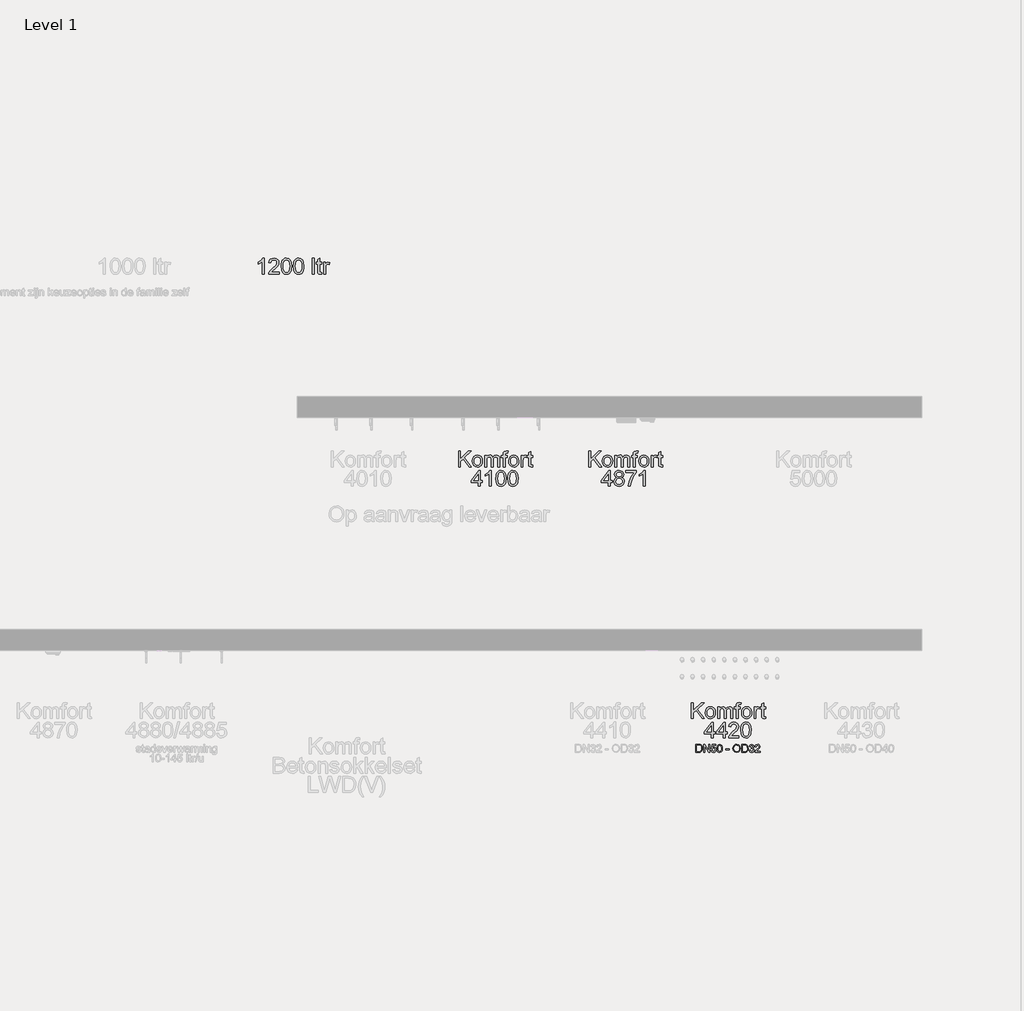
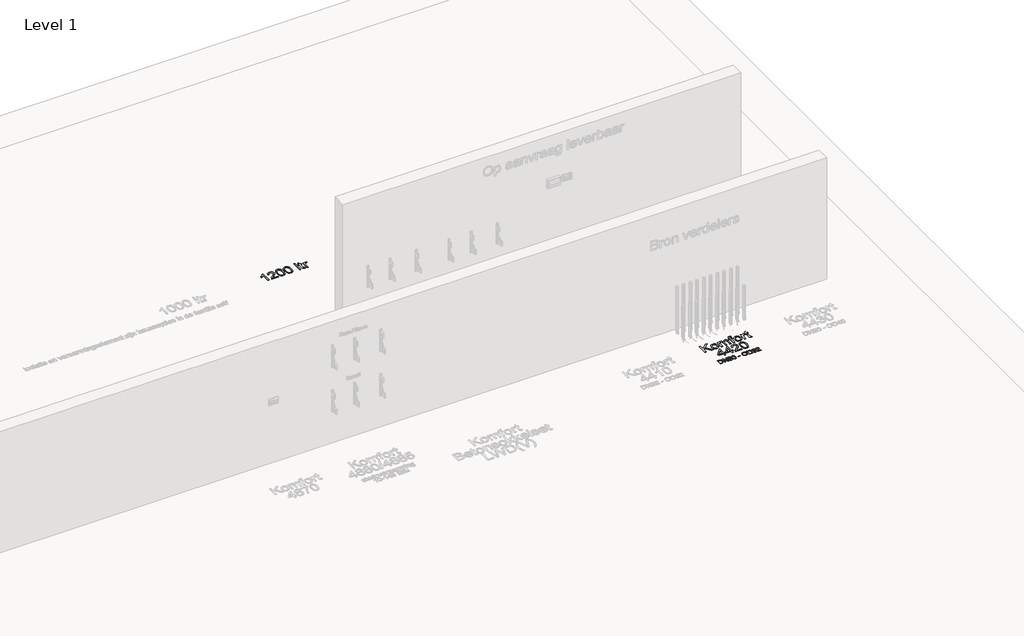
# One storey, part 32 of 34: 5 proxies.
"""IFC4 building model written with IfcOpenShell, lengths in millimetres."""

from ifc_helpers import new_model, si_unit, origin, origin_with_axes, place, context, project, spatial, polyline, outline, extrude, element, save

model = new_model("IFC4")

# Units and contexts
model_context = context("Model", 3, world=origin())
ifc_project = project(units=[si_unit("LENGTHUNIT", "METRE", prefix="MILLI")], contexts=[model_context])

# Site, building, storey
site = spatial("IfcSite", under=ifc_project)
building = spatial("IfcBuilding", under=site)
storey = spatial("IfcBuildingStorey", under=building, Name="Level 1", Elevation=0.0)

# Proxies
placement = place(None, origin())
element("IfcBuildingElementProxy", 1, Name="DN", ObjectType="DN", at=placement, inside=storey, context=model_context, shape_type="SweptSolid", body=[
    extrude(outline(polyline([(663.4238265, 6628.0579707), (663.4238265, 6701.9041245), (688.8985861, 6701.9041245), (702.0776727, 6700.8404226), (712.931038, 6695.5579707), (721.6750284, 6682.9377784), (724.5776727, 6665.3776822), (722.6125284, 6650.4768409), (717.5644515, 6639.7226341), (710.821663, 6633.0249178), (701.9965428, 6629.3199899), (690.1245477, 6628.0579707), (663.4238265, 6628.0579707)]), holes=[polyline([(672.6545957, 6637.2887399), (688.9887303, 6637.2887399), (700.86974, 6638.6228745), (707.7207015, 6642.3909034), (713.3366871, 6651.5585716), (715.3469034, 6665.521913), (711.4076005, 6683.0098937), (701.8252688, 6691.1949899), (688.7363265, 6692.6733553), (672.6545957, 6692.6733553), (672.6545957, 6637.2887399)])]), origin_with_axes(), (0.0, 0.0, 1.0), 5.0),
    extrude(outline(polyline([(737.2699803, 6628.0579707), (737.2699803, 6701.9041245), (747.149788, 6701.9041245), (785.7315188, 6643.4005187), (785.7315188, 6701.9041245), (794.962288, 6701.9041245), (794.962288, 6628.0579707), (785.0824803, 6628.0579707), (746.5007496, 6686.5796053), (746.5007496, 6628.0579707), (737.2699803, 6628.0579707)])), origin_with_axes(), (0.0, 0.0, 1.0), 5.0),
    extrude(outline(polyline([(807.6545957, 6647.6733553), (816.885365, 6648.8272014), (821.5368073, 6639.3169851), (831.18224, 6636.1348937), (842.7567592, 6640.5609755), (846.885365, 6652.3067687), (843.0181775, 6663.2683072), (831.3264707, 6667.2887399), (823.2225044, 6665.6841726), (818.0392111, 6661.5195091), (808.8084419, 6662.6733553), (816.885365, 6700.7502784), (852.6545957, 6700.7502784), (852.6545957, 6691.5195091), (824.3493073, 6691.5195091), (820.40099, 6671.1829707), (833.9045957, 6676.5195091), (842.529145, 6674.8653625), (849.6888505, 6669.9029226), (854.5093133, 6662.3398216), (856.1161342, 6652.8836918), (850.3288746, 6635.756288), (842.0175765, 6629.1171654), (831.1461823, 6626.9041245), (822.0799263, 6628.3261498), (814.8571198, 6632.5922255), (809.9059479, 6639.2065584), (807.6545957, 6647.6733553)])), origin_with_axes(), (0.0, 0.0, 1.0), 5.0),
    extrude(outline(polyline([(864.1930573, 6664.3860957), (866.9063986, 6685.6330909), (874.9652928, 6697.8836918), (888.4238265, 6701.9041245), (899.2050765, 6699.5243168), (906.65099, 6692.6643409), (910.977913, 6681.7388601), (912.6545957, 6664.3860957), (909.9682977, 6643.2292447), (901.9364467, 6630.9516005), (888.4238265, 6626.9041245), (878.8324803, 6628.661937), (871.5488265, 6633.9353745), (866.0319996, 6646.4248577), (864.1930573, 6664.3860957)]), holes=[polyline([(873.4238265, 6664.4041245), (874.5055573, 6649.8841425), (877.7507496, 6641.4804466), (888.4238265, 6636.1348937), (899.0969034, 6641.4984755), (902.3420957, 6649.9066786), (903.4238265, 6664.4041245), (899.2411342, 6687.0663841), (888.3156534, 6692.6733553), (877.8949803, 6687.7334514), (874.541615, 6678.7370572), (873.4238265, 6664.4041245)])]), origin_with_axes(), (0.0, 0.0, 1.0), 5.0),
    extrude(outline(polyline([(947.2699803, 6649.9810476), (947.2699803, 6659.2118168), (976.1161342, 6659.2118168), (976.1161342, 6649.9810476), (947.2699803, 6649.9810476)])), origin_with_axes(), (0.0, 0.0, 1.0), 5.0),
    extrude(outline(polyline([(1013.0392111, 6664.0074899), (1015.5001486, 6680.3371173), (1022.8829611, 6692.6913841), (1034.1554972, 6700.466324), (1048.2856053, 6703.0579707), (1066.6569996, 6698.1901822), (1079.1329611, 6684.614461), (1083.4238265, 6664.8548457), (1078.9076005, 6644.8247976), (1066.1071198, 6631.4473937), (1048.2315188, 6626.9041245), (1029.6618073, 6631.9251582), (1017.2579611, 6645.6270812), (1013.0392111, 6664.0074899)]), holes=[polyline([(1022.2699803, 6663.9173457), (1024.1156835, 6652.3653625), (1029.6527928, 6643.5627784), (1037.975359, 6637.9918649), (1048.1774323, 6636.1348937), (1058.5282436, 6638.0098937), (1066.8643313, 6643.6348937), (1072.3608758, 6652.7079106), (1074.1930573, 6664.926961), (1071.056038, 6680.161336), (1061.8883698, 6690.2484755), (1048.3396919, 6693.8272014), (1038.4103049, 6692.103193), (1029.9682977, 6686.9311678), (1024.1945597, 6677.7296954), (1022.2699803, 6663.9173457)])]), origin_with_axes(), (0.0, 0.0, 1.0), 5.0),
    extrude(outline(polyline([(1096.1161342, 6628.0579707), (1096.1161342, 6701.9041245), (1121.5908938, 6701.9041245), (1134.7699803, 6700.8404226), (1145.6233457, 6695.5579707), (1154.3673361, 6682.9377784), (1157.2699803, 6665.3776822), (1155.3048361, 6650.4768409), (1150.2567592, 6639.7226341), (1143.5139707, 6633.0249178), (1134.6888505, 6629.3199899), (1122.8168553, 6628.0579707), (1096.1161342, 6628.0579707)]), holes=[polyline([(1105.3469034, 6637.2887399), (1121.681038, 6637.2887399), (1133.5620477, 6638.6228745), (1140.4130092, 6642.3909034), (1146.0289948, 6651.5585716), (1148.0392111, 6665.521913), (1144.0999082, 6683.0098937), (1134.5175765, 6691.1949899), (1121.4286342, 6692.6733553), (1105.3469034, 6692.6733553), (1105.3469034, 6637.2887399)])]), origin_with_axes(), (0.0, 0.0, 1.0), 5.0),
    extrude(outline(polyline([(1166.5007496, 6647.6733553), (1175.7315188, 6648.8272014), (1180.8246678, 6639.1096534), (1190.352913, 6636.1348937), (1201.5668553, 6640.2274418), (1205.7315188, 6650.3596534), (1201.602913, 6659.9059274), (1191.1101246, 6663.6829707), (1184.6377688, 6662.6733553), (1185.665413, 6671.9041245), (1197.618538, 6674.4461918), (1202.2699803, 6682.5952303), (1198.8985861, 6689.8157832), (1190.2086823, 6692.6733553), (1181.4106053, 6689.7887399), (1176.885365, 6681.1348937), (1167.6545957, 6682.2887399), (1175.2086823, 6696.7659034), (1189.884163, 6701.9041245), (1201.0169755, 6699.3710716), (1208.8054371, 6692.4479947), (1211.5007496, 6683.1360957), (1208.9406534, 6674.6264803), (1201.368538, 6668.5147014), (1211.4286342, 6662.2046053), (1214.962288, 6650.1973937), (1213.1954611, 6641.2009995), (1207.8949803, 6633.6829707), (1199.8946799, 6628.598836), (1190.0283938, 6626.9041245), (1181.104115, 6628.3509394), (1173.83849, 6632.6913841), (1168.7859058, 6639.3305067), (1166.5007496, 6647.6733553)])), origin_with_axes(), (0.0, 0.0, 1.0), 5.0),
    extrude(outline(polyline([(1270.3469034, 6637.2887399), (1270.3469034, 6628.0579707), (1221.885365, 6628.0579707), (1222.8769515, 6634.4221534), (1228.4839227, 6644.2208312), (1240.040413, 6654.9209514), (1255.977913, 6670.2995572), (1259.962288, 6680.756288), (1256.2032736, 6689.2208312), (1246.3865669, 6692.6733553), (1236.1551967, 6689.301961), (1232.2699803, 6679.9810476), (1223.0392111, 6681.1348937), (1225.2770416, 6690.0636798), (1230.1155332, 6696.5856149), (1246.5848842, 6701.9041245), (1255.9350945, 6700.4257591), (1263.1083217, 6695.990663), (1267.6718734, 6689.365062), (1269.1930573, 6681.3151822), (1267.5524323, 6672.5621774), (1262.0987063, 6663.5116966), (1248.8745477, 6650.864461), (1238.2555573, 6641.9852543), (1234.0908938, 6637.2887399), (1270.3469034, 6637.2887399)])), origin_with_axes(), (0.0, 0.0, 1.0), 5.0),
])
element("IfcBuildingElementProxy", 2, Name="type", ObjectType="type", at=placement, inside=storey, context=model_context, shape_type="SweptSolid", body=[
    extrude(outline(polyline([(621.3084419, 6948.0579707), (621.3084419, 7095.7502784), (639.7699803, 7095.7502784), (639.7699803, 7023.4546053), (715.4911342, 7095.7502784), (741.3084419, 7095.7502784), (677.7387303, 7035.0291245), (743.6161342, 6948.0579707), (721.0440188, 6948.0579707), (664.649788, 7022.553163), (639.7699803, 6998.8272014), (639.7699803, 6948.0579707), (621.3084419, 6948.0579707)])), origin_with_axes(), (0.0, 0.0, 1.0), 5.0),
    extrude(outline(polyline([(750.5392111, 7002.2887399), (754.5326005, 7028.4395812), (766.5127688, 7046.8199899), (781.3144515, 7055.8253985), (799.0368073, 7058.8272014), (818.4313385, 7055.1718529), (833.9226246, 7044.2058072), (844.0773722, 7026.794449), (847.462288, 7003.803163), (845.9658938, 6985.1523216), (841.4767111, 6970.9546053), (834.1254491, 6960.3220933), (824.0428169, 6952.3668649), (812.0671558, 6947.404425), (799.0368073, 6945.7502784), (779.407901, 6949.3921053), (763.9346438, 6960.317586), (753.8880693, 6978.0940284), (750.5392111, 7002.2887399)]), holes=[polyline([(769.0007496, 7002.3247976), (771.1371678, 6985.6165644), (777.5464227, 6973.7130187), (787.1918553, 6966.5871173), (799.0368073, 6964.2118168), (810.8276727, 6966.6006389), (820.4550765, 6973.7671053), (826.8643313, 6985.8284034), (829.0007496, 7002.9017207), (826.8508097, 7019.123175), (820.40099, 7030.864461), (810.7600645, 7037.9903625), (799.0368073, 7040.365663), (787.1918553, 7037.9993769), (777.5464227, 7030.9005187), (771.1371678, 7019.0240163), (769.0007496, 7002.3247976)])]), origin_with_axes(), (0.0, 0.0, 1.0), 5.0),
    extrude(outline(polyline([(868.2315188, 6948.0579707), (868.2315188, 7056.5195091), (886.6930573, 7056.5195091), (886.6930573, 7038.6709514), (899.385365, 7053.2923457), (917.4502688, 7058.8272014), (927.7176967, 7057.4164442), (935.947865, 7053.1841726), (946.1161342, 7037.3728745), (960.5211823, 7053.4636197), (978.712288, 7058.8272014), (992.5899924, 7056.5961317), (1002.852913, 7049.9029226), (1009.1945597, 7038.5672856), (1011.3084419, 7022.4089322), (1011.3084419, 6948.0579707), (992.8469034, 6948.0579707), (992.8469034, 7014.4762399), (991.134163, 7029.8909034), (984.93224, 7037.4810476), (974.385365, 7040.365663), (964.3838626, 7038.5177062), (956.2303169, 7032.973836), (950.8081414, 7023.3554466), (949.0007496, 7009.2839322), (949.0007496, 6948.0579707), (930.5392111, 6948.0579707), (930.5392111, 7016.5315284), (926.2663746, 7034.4161437), (920.6278529, 7038.8782832), (912.2579611, 7040.365663), (898.5920957, 7036.3993168), (889.5055573, 7024.7887399), (886.6930573, 7002.7574899), (886.6930573, 6948.0579707), (868.2315188, 6948.0579707)])), origin_with_axes(), (0.0, 0.0, 1.0), 5.0),
    extrude(outline(polyline([(1043.6161342, 6948.0579707), (1043.6161342, 7038.0579707), (1027.462288, 7038.0579707), (1027.462288, 7056.5195091), (1043.6161342, 7056.5195091), (1043.6161342, 7067.4449899), (1045.5632496, 7082.8416245), (1055.010365, 7093.8392207), (1073.6161342, 7098.0579707), (1090.4550765, 7096.0387399), (1087.7507496, 7078.7310476), (1077.1137303, 7079.5964322), (1065.4851246, 7076.5315284), (1062.0776727, 7065.1012399), (1062.0776727, 7056.5195091), (1082.8469034, 7056.5195091), (1082.8469034, 7038.0579707), (1062.0776727, 7038.0579707), (1062.0776727, 6948.0579707), (1043.6161342, 6948.0579707)])), origin_with_axes(), (0.0, 0.0, 1.0), 5.0),
    extrude(outline(polyline([(1094.385365, 7002.2887399), (1098.3787544, 7028.4395812), (1110.3589227, 7046.8199899), (1125.1606053, 7055.8253985), (1142.8829611, 7058.8272014), (1162.2774924, 7055.1718529), (1177.7687784, 7044.2058072), (1187.923526, 7026.794449), (1191.3084419, 7003.803163), (1189.8120477, 6985.1523216), (1185.322865, 6970.9546053), (1177.9716029, 6960.3220933), (1167.8889707, 6952.3668649), (1155.9133097, 6947.404425), (1142.8829611, 6945.7502784), (1123.2540549, 6949.3921053), (1107.7807977, 6960.317586), (1097.7342231, 6978.0940284), (1094.385365, 7002.2887399)]), holes=[polyline([(1112.8469034, 7002.3247976), (1114.9833217, 6985.6165644), (1121.3925765, 6973.7130187), (1131.0380092, 6966.5871173), (1142.8829611, 6964.2118168), (1154.6738265, 6966.6006389), (1164.3012303, 6973.7671053), (1170.7104852, 6985.8284034), (1172.8469034, 7002.9017207), (1170.6969635, 7019.123175), (1164.2471438, 7030.864461), (1154.6062183, 7037.9903625), (1142.8829611, 7040.365663), (1131.0380092, 7037.9993769), (1121.3925765, 7030.9005187), (1114.9833217, 7019.0240163), (1112.8469034, 7002.3247976)])]), origin_with_axes(), (0.0, 0.0, 1.0), 5.0),
    extrude(outline(polyline([(1212.0776727, 6948.0579707), (1212.0776727, 7056.5195091), (1228.2315188, 7056.5195091), (1228.2315188, 7040.473836), (1239.697865, 7055.2574899), (1251.2363265, 7058.8272014), (1269.7699803, 7053.130086), (1263.604115, 7036.5796053), (1250.6233457, 7040.365663), (1240.1846438, 7036.723836), (1233.5319996, 7026.6276822), (1230.5392111, 7005.0651822), (1230.5392111, 6948.0579707), (1212.0776727, 6948.0579707)])), origin_with_axes(), (0.0, 0.0, 1.0), 5.0),
    extrude(outline(polyline([(1320.5392111, 6963.4546053), (1322.8469034, 6947.5171053), (1309.0368073, 6945.7502784), (1293.5680573, 6948.8151822), (1285.8517111, 6956.8560476), (1283.6161342, 6977.8055668), (1283.6161342, 7038.0579707), (1269.7699803, 7038.0579707), (1269.7699803, 7056.5195091), (1283.6161342, 7056.5195091), (1283.6161342, 7082.8776822), (1302.0776727, 7093.7310476), (1302.0776727, 7056.5195091), (1320.5392111, 7056.5195091), (1320.5392111, 7038.0579707), (1302.0776727, 7038.0579707), (1302.0776727, 6978.3464322), (1303.0512303, 6968.8272014), (1306.2062784, 6965.4558072), (1312.4983457, 6964.2118168), (1320.5392111, 6963.4546053)])), origin_with_axes(), (0.0, 0.0, 1.0), 5.0),
    extrude(outline(polyline([(808.2315188, 6765.7502784), (808.2315188, 6800.365663), (741.3084419, 6800.365663), (741.3084419, 6818.8272014), (812.8469034, 6911.1348937), (826.6930573, 6911.1348937), (826.6930573, 6818.8272014), (845.1545957, 6818.8272014), (845.1545957, 6800.365663), (826.6930573, 6800.365663), (826.6930573, 6765.7502784), (808.2315188, 6765.7502784)]), holes=[polyline([(808.2315188, 6818.8272014), (808.2315188, 6875.8704707), (764.024788, 6818.8272014), (808.2315188, 6818.8272014)])]), origin_with_axes(), (0.0, 0.0, 1.0), 5.0),
    extrude(outline(polyline([(921.3084419, 6765.7502784), (921.3084419, 6800.365663), (854.385365, 6800.365663), (854.385365, 6818.8272014), (925.9238265, 6911.1348937), (939.7699803, 6911.1348937), (939.7699803, 6818.8272014), (958.2315188, 6818.8272014), (958.2315188, 6800.365663), (939.7699803, 6800.365663), (939.7699803, 6765.7502784), (921.3084419, 6765.7502784)]), holes=[polyline([(921.3084419, 6818.8272014), (921.3084419, 6875.8704707), (877.1017111, 6818.8272014), (921.3084419, 6818.8272014)])]), origin_with_axes(), (0.0, 0.0, 1.0), 5.0),
    extrude(outline(polyline([(1069.0007496, 6784.2118168), (1069.0007496, 6765.7502784), (972.0776727, 6765.7502784), (974.0608457, 6778.4786437), (985.274788, 6798.0759995), (1008.3877688, 6819.4762399), (1040.2627688, 6850.2334514), (1046.2393313, 6860.834413), (1048.2315188, 6871.146913), (1046.3520116, 6880.3912038), (1040.71349, 6888.0759995), (1032.0461222, 6893.2547856), (1021.0800765, 6894.9810476), (1009.564151, 6893.2953505), (1000.6173361, 6888.2382591), (994.8435981, 6880.2064082), (992.8469034, 6869.5964322), (974.385365, 6871.9041245), (978.861026, 6889.7616966), (988.5380092, 6902.8055668), (1002.9115068, 6910.7833312), (1021.4767111, 6913.442586), (1040.1771318, 6910.4858553), (1054.5235861, 6901.615663), (1063.6506895, 6888.364461), (1066.6930573, 6872.2647014), (1063.4118073, 6854.7586918), (1052.5043553, 6836.6577303), (1026.056038, 6811.3632591), (1004.8180573, 6793.6048457), (996.4887303, 6784.2118168), (1069.0007496, 6784.2118168)])), origin_with_axes(), (0.0, 0.0, 1.0), 5.0),
    extrude(outline(polyline([(1087.462288, 6838.4065284), (1088.8189587, 6862.0468529), (1092.8889707, 6880.9005187), (1099.6317592, 6895.2559875), (1109.0067592, 6905.4017207), (1121.0815789, 6911.4323697), (1135.9238265, 6913.442586), (1157.4863265, 6908.6829707), (1172.3781534, 6894.9630187), (1181.0319996, 6873.1120572), (1184.385365, 6838.4065284), (1183.0422159, 6814.9014202), (1179.0127688, 6796.0928264), (1172.3105452, 6781.723836), (1162.9490669, 6771.537538), (1150.8472039, 6765.466324), (1135.9238265, 6763.442586), (1116.7411342, 6766.958211), (1102.1738265, 6777.505086), (1091.1401727, 6802.4840524), (1087.462288, 6838.4065284)]), holes=[polyline([(1105.9238265, 6838.442586), (1108.087288, 6809.4026221), (1114.5776727, 6792.5952303), (1124.2411342, 6784.576901), (1135.9238265, 6781.9041245), (1147.6065188, 6784.5859154), (1157.2699803, 6792.631288), (1163.760365, 6809.4476942), (1165.9238265, 6838.442586), (1163.8324803, 6866.8290043), (1157.5584419, 6883.7671053), (1147.9130092, 6892.177562), (1135.7074803, 6894.9810476), (1124.15099, 6892.5110957), (1114.8661342, 6885.1012399), (1108.1594034, 6867.1084514), (1105.9238265, 6838.442586)])]), origin_with_axes(), (0.0, 0.0, 1.0), 5.0),
])
element("IfcBuildingElementProxy", 3, Name="type", ObjectType="type", at=placement, inside=storey, context=model_context, shape_type="SweptSolid", body=[
    extrude(outline(polyline([(-350.9451426, 9326.140235), (-350.9451426, 9473.8325427), (-332.4836041, 9473.8325427), (-332.4836041, 9401.5368697), (-256.7624503, 9473.8325427), (-230.9451426, 9473.8325427), (-294.5148541, 9413.1113889), (-228.6374503, 9326.140235), (-251.2095657, 9326.140235), (-307.6037964, 9400.6354273), (-332.4836041, 9376.9094658), (-332.4836041, 9326.140235), (-350.9451426, 9326.140235)])), origin_with_axes(), (0.0, 0.0, 1.0), 5.0),
    extrude(outline(polyline([(-221.7143733, 9380.3710043), (-217.7209839, 9406.5218456), (-205.7408157, 9424.9022543), (-190.939133, 9433.9076629), (-173.2167772, 9436.9094658), (-153.8222459, 9433.2541173), (-138.3309599, 9422.2880716), (-128.1762123, 9404.8767134), (-124.7912964, 9381.8854273), (-126.2876907, 9363.234586), (-130.7768733, 9349.0368697), (-138.1281354, 9338.4043576), (-148.2107676, 9330.4491293), (-160.1864286, 9325.4866894), (-173.2167772, 9323.8325427), (-192.8456834, 9327.4743697), (-208.3189407, 9338.3998504), (-218.3655152, 9356.1762927), (-221.7143733, 9380.3710043)]), holes=[polyline([(-203.2528349, 9380.407062), (-201.1164166, 9363.6988288), (-194.7071618, 9351.7952831), (-185.0617291, 9344.6693817), (-173.2167772, 9342.2940812), (-161.4259118, 9344.6829033), (-151.798508, 9351.8493697), (-145.3892532, 9363.9106677), (-143.2528349, 9380.983985), (-145.4027748, 9397.2054394), (-151.8525945, 9408.9467254), (-161.49352, 9416.0726269), (-173.2167772, 9418.4479273), (-185.0617291, 9416.0816413), (-194.7071618, 9408.9827831), (-201.1164166, 9397.1062807), (-203.2528349, 9380.407062)])]), origin_with_axes(), (0.0, 0.0, 1.0), 5.0),
    extrude(outline(polyline([(-104.0220657, 9326.140235), (-104.0220657, 9434.6017735), (-85.5605272, 9434.6017735), (-85.5605272, 9416.7532158), (-72.8682195, 9431.37461), (-54.8033157, 9436.9094658), (-44.5358878, 9435.4987086), (-36.3057195, 9431.266437), (-26.1374503, 9415.4551389), (-11.7324022, 9431.5458841), (6.4587036, 9436.9094658), (20.3364079, 9434.6783961), (30.5993286, 9427.985187), (36.9409752, 9416.6495499), (39.0548574, 9400.4911966), (39.0548574, 9326.140235), (20.593319, 9326.140235), (20.593319, 9392.5585043), (18.8805786, 9407.9731677), (12.6786555, 9415.563312), (2.1317805, 9418.4479273), (-7.8697219, 9416.5999706), (-16.0232676, 9411.0561004), (-21.4454431, 9401.437711), (-23.2528349, 9387.3661966), (-23.2528349, 9326.140235), (-41.7143733, 9326.140235), (-41.7143733, 9394.6137927), (-45.9872099, 9412.4984081), (-51.6257315, 9416.9605475), (-59.9956233, 9418.4479273), (-73.6614887, 9414.4815812), (-82.7480272, 9402.8710043), (-85.5605272, 9380.8397543), (-85.5605272, 9326.140235), (-104.0220657, 9326.140235)])), origin_with_axes(), (0.0, 0.0, 1.0), 5.0),
    extrude(outline(polyline([(71.3625497, 9326.140235), (71.3625497, 9416.140235), (55.2087036, 9416.140235), (55.2087036, 9434.6017735), (71.3625497, 9434.6017735), (71.3625497, 9445.5272543), (73.3096651, 9460.9238889), (82.7567805, 9471.921485), (101.3625497, 9476.140235), (118.201492, 9474.1210043), (115.4971651, 9456.813312), (104.8601459, 9457.6786966), (93.2315401, 9454.6137927), (89.8240882, 9443.1835043), (89.8240882, 9434.6017735), (110.593319, 9434.6017735), (110.593319, 9416.140235), (89.8240882, 9416.140235), (89.8240882, 9326.140235), (71.3625497, 9326.140235)])), origin_with_axes(), (0.0, 0.0, 1.0), 5.0),
    extrude(outline(polyline([(122.1317805, 9380.3710043), (126.1251699, 9406.5218456), (138.1053382, 9424.9022543), (152.9070209, 9433.9076629), (170.6293767, 9436.9094658), (190.0239079, 9433.2541173), (205.515194, 9422.2880716), (215.6699416, 9404.8767134), (219.0548574, 9381.8854273), (217.5584632, 9363.234586), (213.0692805, 9349.0368697), (205.7180185, 9338.4043576), (195.6353863, 9330.4491293), (183.6597252, 9325.4866894), (170.6293767, 9323.8325427), (151.0004704, 9327.4743697), (135.5272132, 9338.3998504), (125.4806387, 9356.1762927), (122.1317805, 9380.3710043)]), holes=[polyline([(140.593319, 9380.407062), (142.7297372, 9363.6988288), (149.138992, 9351.7952831), (158.7844247, 9344.6693817), (170.6293767, 9342.2940812), (182.420242, 9344.6829033), (192.0476459, 9351.8493697), (198.4569007, 9363.9106677), (200.593319, 9380.983985), (198.4433791, 9397.2054394), (191.9935593, 9408.9467254), (182.3526339, 9416.0726269), (170.6293767, 9418.4479273), (158.7844247, 9416.0816413), (149.138992, 9408.9827831), (142.7297372, 9397.1062807), (140.593319, 9380.407062)])]), origin_with_axes(), (0.0, 0.0, 1.0), 5.0),
    extrude(outline(polyline([(239.8240882, 9326.140235), (239.8240882, 9434.6017735), (255.9779343, 9434.6017735), (255.9779343, 9418.5561004), (267.4442805, 9433.3397543), (278.982742, 9436.9094658), (297.5163959, 9431.2123504), (291.3505305, 9414.6618697), (278.3697613, 9418.4479273), (267.9310593, 9414.8061004), (261.2784151, 9404.7099466), (258.2856267, 9383.1474466), (258.2856267, 9326.140235), (239.8240882, 9326.140235)])), origin_with_axes(), (0.0, 0.0, 1.0), 5.0),
    extrude(outline(polyline([(348.2856267, 9341.5368697), (350.593319, 9325.5993697), (336.7832228, 9323.8325427), (321.3144728, 9326.8974466), (313.5981267, 9334.938312), (311.3625497, 9355.8878312), (311.3625497, 9416.140235), (297.5163959, 9416.140235), (297.5163959, 9434.6017735), (311.3625497, 9434.6017735), (311.3625497, 9460.9599466), (329.8240882, 9471.813312), (329.8240882, 9434.6017735), (348.2856267, 9434.6017735), (348.2856267, 9416.140235), (329.8240882, 9416.140235), (329.8240882, 9356.4286966), (330.7976459, 9346.9094658), (333.952694, 9343.5380716), (340.2447613, 9342.2940812), (348.2856267, 9341.5368697)])), origin_with_axes(), (0.0, 0.0, 1.0), 5.0),
    extrude(outline(polyline([(-164.0220657, 9143.8325427), (-164.0220657, 9178.4479273), (-230.9451426, 9178.4479273), (-230.9451426, 9196.9094658), (-159.406681, 9289.2171581), (-145.5605272, 9289.2171581), (-145.5605272, 9196.9094658), (-127.0989887, 9196.9094658), (-127.0989887, 9178.4479273), (-145.5605272, 9178.4479273), (-145.5605272, 9143.8325427), (-164.0220657, 9143.8325427)]), holes=[polyline([(-164.0220657, 9196.9094658), (-164.0220657, 9253.952735), (-208.2287964, 9196.9094658), (-164.0220657, 9196.9094658)])]), origin_with_axes(), (0.0, 0.0, 1.0), 5.0),
    extrude(outline(polyline([(-84.0461041, 9225.1786966), (-100.8670176, 9236.6450427), (-106.329758, 9254.4936004), (-103.3549983, 9268.9256918), (-94.4307195, 9280.8517735), (-80.5575224, 9288.8565812), (-62.736008, 9291.5248504), (-44.8063205, 9288.7934802), (-30.7528349, 9280.5993697), (-21.6662964, 9268.483985), (-18.6374503, 9253.9887927), (-24.0280753, 9236.5909562), (-40.3802387, 9225.1786966), (-29.0175584, 9219.3238288), (-20.7468253, 9210.7015331), (-15.7032556, 9199.726473), (-14.0220657, 9186.813312), (-17.3574022, 9169.1630716), (-27.3634118, 9154.577735), (-42.814133, 9144.7880716), (-62.4836041, 9141.5248504), (-82.1530753, 9144.8015932), (-97.6037964, 9154.6318216), (-107.609806, 9169.3568817), (-110.9451426, 9187.3181197), (-109.1963445, 9200.7315812), (-103.9499503, 9211.765235), (-95.4763926, 9220.0404754), (-84.0461041, 9225.1786966)]), holes=[polyline([(-87.8682195, 9253.952735), (-86.2321017, 9245.8938408), (-81.3237483, 9239.4575427), (-73.2873902, 9235.2387927), (-62.267258, 9233.8325427), (-51.5040368, 9235.2297783), (-43.5893733, 9239.421485), (-38.7215849, 9245.641437), (-37.0989887, 9253.1234081), (-38.7756714, 9260.8893336), (-43.8057195, 9267.31211), (-51.828556, 9271.6255115), (-62.4836041, 9273.063312), (-73.2062604, 9271.657062), (-81.2155753, 9267.438312), (-86.2050584, 9261.2544177), (-87.8682195, 9253.952735)]), polyline([(-92.4836041, 9187.9671581), (-89.4006714, 9174.0669177), (-78.4932195, 9163.6642735), (-62.3393733, 9159.9863889), (-49.7732676, 9161.9199826), (-40.344181, 9167.7207639), (-34.4487483, 9176.5053192), (-32.4836041, 9187.390235), (-34.5118493, 9198.4599466), (-40.5965849, 9207.438312), (-50.2420176, 9213.3878312), (-62.9523541, 9215.3710043), (-75.3426786, 9213.4148745), (-84.6771137, 9207.546485), (-90.5319815, 9198.7393937), (-92.4836041, 9187.9671581)])]), origin_with_axes(), (0.0, 0.0, 1.0), 5.0),
    extrude(outline(polyline([(2.1317805, 9270.7556197), (2.1317805, 9289.2171581), (99.0548574, 9289.2171581), (99.0548574, 9274.2892735), (71.560867, 9234.5717254), (50.5212036, 9183.9647543), (43.670242, 9143.8325427), (25.2087036, 9143.8325427), (32.546444, 9185.4791773), (52.6846651, 9232.5524947), (80.593319, 9270.7556197), (2.1317805, 9270.7556197)])), origin_with_axes(), (0.0, 0.0, 1.0), 5.0),
    extrude(outline(polyline([(184.4394728, 9143.8325427), (165.9779343, 9143.8325427), (165.9779343, 9258.9286966), (148.4899536, 9246.4707639), (129.0548574, 9237.1498504), (129.0548574, 9254.6017735), (156.1161555, 9271.8734081), (172.5404343, 9291.5248504), (184.4394728, 9291.5248504), (184.4394728, 9143.8325427)])), origin_with_axes(), (0.0, 0.0, 1.0), 5.0),
])
element("IfcBuildingElementProxy", 4, Name="type", ObjectType="type", at=placement, inside=storey, context=model_context, shape_type="SweptSolid", body=[
    extrude(outline(polyline([(-1579.7912964, 9326.140235), (-1579.7912964, 9473.8325427), (-1561.329758, 9473.8325427), (-1561.329758, 9401.5368697), (-1485.6086041, 9473.8325427), (-1459.7912964, 9473.8325427), (-1523.361008, 9413.1113889), (-1457.4836041, 9326.140235), (-1480.0557195, 9326.140235), (-1536.4499503, 9400.6354273), (-1561.329758, 9376.9094658), (-1561.329758, 9326.140235), (-1579.7912964, 9326.140235)])), origin_with_axes(), (0.0, 0.0, 1.0), 5.0),
    extrude(outline(polyline([(-1450.5605272, 9380.3710043), (-1446.5671378, 9406.5218456), (-1434.5869695, 9424.9022543), (-1419.7852868, 9433.9076629), (-1402.062931, 9436.9094658), (-1382.6683998, 9433.2541173), (-1367.1771137, 9422.2880716), (-1357.0223661, 9404.8767134), (-1353.6374503, 9381.8854273), (-1355.1338445, 9363.234586), (-1359.6230272, 9349.0368697), (-1366.9742892, 9338.4043576), (-1377.0569214, 9330.4491293), (-1389.0325825, 9325.4866894), (-1402.062931, 9323.8325427), (-1421.6918373, 9327.4743697), (-1437.1650945, 9338.3998504), (-1447.211669, 9356.1762927), (-1450.5605272, 9380.3710043)]), holes=[polyline([(-1432.0989887, 9380.407062), (-1429.9625705, 9363.6988288), (-1423.5533157, 9351.7952831), (-1413.907883, 9344.6693817), (-1402.062931, 9342.2940812), (-1390.2720657, 9344.6829033), (-1380.6446618, 9351.8493697), (-1374.235407, 9363.9106677), (-1372.0989887, 9380.983985), (-1374.2489286, 9397.2054394), (-1380.6987483, 9408.9467254), (-1390.3396738, 9416.0726269), (-1402.062931, 9418.4479273), (-1413.907883, 9416.0816413), (-1423.5533157, 9408.9827831), (-1429.9625705, 9397.1062807), (-1432.0989887, 9380.407062)])]), origin_with_axes(), (0.0, 0.0, 1.0), 5.0),
    extrude(outline(polyline([(-1332.8682195, 9326.140235), (-1332.8682195, 9434.6017735), (-1314.406681, 9434.6017735), (-1314.406681, 9416.7532158), (-1301.7143733, 9431.37461), (-1283.6494695, 9436.9094658), (-1273.3820416, 9435.4987086), (-1265.1518733, 9431.266437), (-1254.9836041, 9415.4551389), (-1240.578556, 9431.5458841), (-1222.3874503, 9436.9094658), (-1208.5097459, 9434.6783961), (-1198.2468253, 9427.985187), (-1191.9051786, 9416.6495499), (-1189.7912964, 9400.4911966), (-1189.7912964, 9326.140235), (-1208.2528349, 9326.140235), (-1208.2528349, 9392.5585043), (-1209.9655753, 9407.9731677), (-1216.1674983, 9415.563312), (-1226.7143733, 9418.4479273), (-1236.7158757, 9416.5999706), (-1244.8694214, 9411.0561004), (-1250.2915969, 9401.437711), (-1252.0989887, 9387.3661966), (-1252.0989887, 9326.140235), (-1270.5605272, 9326.140235), (-1270.5605272, 9394.6137927), (-1274.8333637, 9412.4984081), (-1280.4718854, 9416.9605475), (-1288.8417772, 9418.4479273), (-1302.5076426, 9414.4815812), (-1311.594181, 9402.8710043), (-1314.406681, 9380.8397543), (-1314.406681, 9326.140235), (-1332.8682195, 9326.140235)])), origin_with_axes(), (0.0, 0.0, 1.0), 5.0),
    extrude(outline(polyline([(-1157.4836041, 9326.140235), (-1157.4836041, 9416.140235), (-1173.6374503, 9416.140235), (-1173.6374503, 9434.6017735), (-1157.4836041, 9434.6017735), (-1157.4836041, 9445.5272543), (-1155.5364887, 9460.9238889), (-1146.0893733, 9471.921485), (-1127.4836041, 9476.140235), (-1110.6446618, 9474.1210043), (-1113.3489887, 9456.813312), (-1123.986008, 9457.6786966), (-1135.6146137, 9454.6137927), (-1139.0220657, 9443.1835043), (-1139.0220657, 9434.6017735), (-1118.2528349, 9434.6017735), (-1118.2528349, 9416.140235), (-1139.0220657, 9416.140235), (-1139.0220657, 9326.140235), (-1157.4836041, 9326.140235)])), origin_with_axes(), (0.0, 0.0, 1.0), 5.0),
    extrude(outline(polyline([(-1106.7143733, 9380.3710043), (-1102.7209839, 9406.5218456), (-1090.7408157, 9424.9022543), (-1075.939133, 9433.9076629), (-1058.2167772, 9436.9094658), (-1038.8222459, 9433.2541173), (-1023.3309599, 9422.2880716), (-1013.1762123, 9404.8767134), (-1009.7912964, 9381.8854273), (-1011.2876907, 9363.234586), (-1015.7768733, 9349.0368697), (-1023.1281354, 9338.4043576), (-1033.2107676, 9330.4491293), (-1045.1864286, 9325.4866894), (-1058.2167772, 9323.8325427), (-1077.8456834, 9327.4743697), (-1093.3189407, 9338.3998504), (-1103.3655152, 9356.1762927), (-1106.7143733, 9380.3710043)]), holes=[polyline([(-1088.2528349, 9380.407062), (-1086.1164166, 9363.6988288), (-1079.7071618, 9351.7952831), (-1070.0617291, 9344.6693817), (-1058.2167772, 9342.2940812), (-1046.4259118, 9344.6829033), (-1036.798508, 9351.8493697), (-1030.3892532, 9363.9106677), (-1028.2528349, 9380.983985), (-1030.4027748, 9397.2054394), (-1036.8525945, 9408.9467254), (-1046.49352, 9416.0726269), (-1058.2167772, 9418.4479273), (-1070.0617291, 9416.0816413), (-1079.7071618, 9408.9827831), (-1086.1164166, 9397.1062807), (-1088.2528349, 9380.407062)])]), origin_with_axes(), (0.0, 0.0, 1.0), 5.0),
    extrude(outline(polyline([(-989.0220657, 9326.140235), (-989.0220657, 9434.6017735), (-972.8682195, 9434.6017735), (-972.8682195, 9418.5561004), (-961.4018733, 9433.3397543), (-949.8634118, 9436.9094658), (-931.329758, 9431.2123504), (-937.4956233, 9414.6618697), (-950.4763926, 9418.4479273), (-960.9150945, 9414.8061004), (-967.5677387, 9404.7099466), (-970.5605272, 9383.1474466), (-970.5605272, 9326.140235), (-989.0220657, 9326.140235)])), origin_with_axes(), (0.0, 0.0, 1.0), 5.0),
    extrude(outline(polyline([(-880.5605272, 9341.5368697), (-878.2528349, 9325.5993697), (-892.062931, 9323.8325427), (-907.531681, 9326.8974466), (-915.2480272, 9334.938312), (-917.4836041, 9355.8878312), (-917.4836041, 9416.140235), (-931.329758, 9416.140235), (-931.329758, 9434.6017735), (-917.4836041, 9434.6017735), (-917.4836041, 9460.9599466), (-899.0220657, 9471.813312), (-899.0220657, 9434.6017735), (-880.5605272, 9434.6017735), (-880.5605272, 9416.140235), (-899.0220657, 9416.140235), (-899.0220657, 9356.4286966), (-898.048508, 9346.9094658), (-894.8934599, 9343.5380716), (-888.6013926, 9342.2940812), (-880.5605272, 9341.5368697)])), origin_with_axes(), (0.0, 0.0, 1.0), 5.0),
    extrude(outline(polyline([(-1392.8682195, 9143.8325427), (-1392.8682195, 9178.4479273), (-1459.7912964, 9178.4479273), (-1459.7912964, 9196.9094658), (-1388.2528349, 9289.2171581), (-1374.406681, 9289.2171581), (-1374.406681, 9196.9094658), (-1355.9451426, 9196.9094658), (-1355.9451426, 9178.4479273), (-1374.406681, 9178.4479273), (-1374.406681, 9143.8325427), (-1392.8682195, 9143.8325427)]), holes=[polyline([(-1392.8682195, 9196.9094658), (-1392.8682195, 9253.952735), (-1437.0749503, 9196.9094658), (-1392.8682195, 9196.9094658)])]), origin_with_axes(), (0.0, 0.0, 1.0), 5.0),
    extrude(outline(polyline([(-1270.5605272, 9143.8325427), (-1289.0220657, 9143.8325427), (-1289.0220657, 9258.9286966), (-1306.5100464, 9246.4707639), (-1325.9451426, 9237.1498504), (-1325.9451426, 9254.6017735), (-1298.8838445, 9271.8734081), (-1282.4595657, 9291.5248504), (-1270.5605272, 9291.5248504), (-1270.5605272, 9143.8325427)])), origin_with_axes(), (0.0, 0.0, 1.0), 5.0),
    extrude(outline(polyline([(-1226.7143733, 9216.4887927), (-1225.3577027, 9240.1291173), (-1221.2876907, 9258.9827831), (-1214.5449022, 9273.3382519), (-1205.1699022, 9283.483985), (-1193.0950825, 9289.5146341), (-1178.2528349, 9291.5248504), (-1156.6903349, 9286.765235), (-1141.798508, 9273.0452831), (-1133.1446618, 9251.1943216), (-1129.7912964, 9216.4887927), (-1131.1344455, 9192.9836846), (-1135.1638926, 9174.1750908), (-1141.8661161, 9159.8061004), (-1151.2275945, 9149.6198023), (-1163.3294575, 9143.5485884), (-1178.2528349, 9141.5248504), (-1197.4355272, 9145.0404754), (-1212.0028349, 9155.5873504), (-1223.0364887, 9180.5663168), (-1226.7143733, 9216.4887927)]), holes=[polyline([(-1208.2528349, 9216.5248504), (-1206.0893733, 9187.4848865), (-1199.5989887, 9170.6774947), (-1189.9355272, 9162.6591653), (-1178.2528349, 9159.9863889), (-1166.5701426, 9162.6681798), (-1156.906681, 9170.7135523), (-1150.4162964, 9187.5299586), (-1148.2528349, 9216.5248504), (-1150.344181, 9244.9112687), (-1156.6182195, 9261.8493697), (-1166.2636522, 9270.2598264), (-1178.469181, 9273.063312), (-1190.0256714, 9270.59336), (-1199.3105272, 9263.1835043), (-1206.017258, 9245.1907158), (-1208.2528349, 9216.5248504)])]), origin_with_axes(), (0.0, 0.0, 1.0), 5.0),
    extrude(outline(polyline([(-1113.6374503, 9216.4887927), (-1112.2807796, 9240.1291173), (-1108.2107676, 9258.9827831), (-1101.4679791, 9273.3382519), (-1092.0929791, 9283.483985), (-1080.0181594, 9289.5146341), (-1065.1759118, 9291.5248504), (-1043.6134118, 9286.765235), (-1028.7215849, 9273.0452831), (-1020.0677387, 9251.1943216), (-1016.7143733, 9216.4887927), (-1018.0575224, 9192.9836846), (-1022.0869695, 9174.1750908), (-1028.7891931, 9159.8061004), (-1038.1506714, 9149.6198023), (-1050.2525344, 9143.5485884), (-1065.1759118, 9141.5248504), (-1084.3586041, 9145.0404754), (-1098.9259118, 9155.5873504), (-1109.9595657, 9180.5663168), (-1113.6374503, 9216.4887927)]), holes=[polyline([(-1095.1759118, 9216.5248504), (-1093.0124503, 9187.4848865), (-1086.5220657, 9170.6774947), (-1076.8586041, 9162.6591653), (-1065.1759118, 9159.9863889), (-1053.4932195, 9162.6681798), (-1043.829758, 9170.7135523), (-1037.3393733, 9187.5299586), (-1035.1759118, 9216.5248504), (-1037.267258, 9244.9112687), (-1043.5412964, 9261.8493697), (-1053.1867291, 9270.2598264), (-1065.392258, 9273.063312), (-1076.9487483, 9270.59336), (-1086.2336041, 9263.1835043), (-1092.9403349, 9245.1907158), (-1095.1759118, 9216.5248504)])]), origin_with_axes(), (0.0, 0.0, 1.0), 5.0),
])
element("IfcBuildingElementProxy", 5, Name="type", ObjectType="type", at=placement, inside=storey, context=model_context, shape_type="SweptSolid", body=[
    extrude(outline(polyline([(-3415.1991407, 11148.0579707), (-3434.0346988, 11148.0579707), (-3434.0346988, 11265.4859035), (-3451.8769756, 11252.7755806), (-3471.7058151, 11243.265831), (-3471.7058151, 11261.0713196), (-3444.0962714, 11278.6928672), (-3427.3392465, 11298.7424359), (-3415.1991407, 11298.7424359), (-3415.1991407, 11148.0579707)])), origin_with_axes(), (0.0, 0.0, 1.0), 5.0),
    extrude(outline(polyline([(-3273.9324545, 11166.8935288), (-3273.9324545, 11148.0579707), (-3372.8191348, 11148.0579707), (-3370.7957839, 11161.0442051), (-3359.3546538, 11181.0385915), (-3335.7734179, 11202.8723879), (-3303.2526495, 11234.2527221), (-3297.1550055, 11245.0684528), (-3295.1224574, 11255.5898779), (-3297.0400423, 11265.0214525), (-3302.792797, 11272.8619375), (-3311.6357605, 11278.1456427), (-3322.8239717, 11279.9068777), (-3334.5732029, 11278.1870294), (-3343.7012749, 11273.0274844), (-3349.5919854, 11264.832913), (-3351.6291319, 11254.0079853), (-3370.4646901, 11256.36243), (-3365.8983548, 11274.5817859), (-3356.0253218, 11287.889917), (-3341.3606257, 11296.0293062), (-3322.4193015, 11298.7424359), (-3303.3400215, 11295.7258035), (-3288.7029166, 11286.6759064), (-3279.3909036, 11273.1562431), (-3276.2868993, 11256.730312), (-3279.6346255, 11238.8696412), (-3290.7630558, 11220.401965), (-3317.7472002, 11194.5950431), (-3339.4154497, 11176.4768548), (-3347.9135238, 11166.8935288), (-3273.9324545, 11166.8935288)])), origin_with_axes(), (0.0, 0.0, 1.0), 5.0),
    extrude(outline(polyline([(-3255.0968964, 11222.1861927), (-3253.7127404, 11246.305456), (-3249.5602723, 11265.5410858), (-3242.680879, 11280.1873878), (-3233.1159472, 11290.5386674), (-3220.7964988, 11296.6914938), (-3205.6535562, 11298.7424359), (-3183.6542129, 11293.8863936), (-3168.4606865, 11279.8884836), (-3159.6315186, 11257.5948347), (-3156.2102161, 11222.1861927), (-3157.5805765, 11198.2048851), (-3161.6916578, 11179.0152406), (-3168.5296644, 11164.3551431), (-3178.0808007, 11153.9624767), (-3190.4278401, 11147.7682636), (-3205.6535562, 11145.7035259), (-3225.2248784, 11149.2903753), (-3240.087311, 11160.0509237), (-3251.3445, 11185.5359489), (-3255.0968964, 11222.1861927)]), holes=[polyline([(-3236.2613382, 11222.2229809), (-3234.0540463, 11192.5946847), (-3227.4321703, 11175.4467852), (-3217.5729329, 11167.2660093), (-3205.6535562, 11164.539084), (-3193.7341796, 11167.2752064), (-3183.8749421, 11175.4835734), (-3177.2530662, 11192.64067), (-3175.0457742, 11222.2229809), (-3177.1794898, 11251.184491), (-3183.5806365, 11268.4657477), (-3193.4214799, 11277.0465952), (-3205.8742854, 11279.9068777), (-3217.6649034, 11277.3868861), (-3227.1378647, 11269.8269111), (-3233.9804699, 11251.4695995), (-3236.2613382, 11222.2229809)])]), origin_with_axes(), (0.0, 0.0, 1.0), 5.0),
    extrude(outline(polyline([(-3139.7291027, 11222.1861927), (-3138.3449467, 11246.305456), (-3134.1924787, 11265.5410858), (-3127.3130853, 11280.1873878), (-3117.7481535, 11290.5386674), (-3105.4287052, 11296.6914938), (-3090.2857625, 11298.7424359), (-3068.2864192, 11293.8863936), (-3053.0928928, 11279.8884836), (-3044.2637249, 11257.5948347), (-3040.8424224, 11222.1861927), (-3042.2127828, 11198.2048851), (-3046.3238641, 11179.0152406), (-3053.1618707, 11164.3551431), (-3062.713007, 11153.9624767), (-3075.0600465, 11147.7682636), (-3090.2857625, 11145.7035259), (-3109.8570847, 11149.2903753), (-3124.7195173, 11160.0509237), (-3135.9767063, 11185.5359489), (-3139.7291027, 11222.1861927)]), holes=[polyline([(-3120.8935445, 11222.2229809), (-3118.6862526, 11192.5946847), (-3112.0643766, 11175.4467852), (-3102.2051392, 11167.2660093), (-3090.2857625, 11164.539084), (-3078.3663859, 11167.2752064), (-3068.5071484, 11175.4835734), (-3061.8852725, 11192.64067), (-3059.6779805, 11222.2229809), (-3061.8116961, 11251.184491), (-3068.2128428, 11268.4657477), (-3078.0536862, 11277.0465952), (-3090.5064917, 11279.9068777), (-3102.2971097, 11277.3868861), (-3111.7700711, 11269.8269111), (-3118.6126762, 11251.4695995), (-3120.8935445, 11222.2229809)])]), origin_with_axes(), (0.0, 0.0, 1.0), 5.0),
    extrude(outline(polyline([(-2960.7913002, 11148.0579707), (-2960.7913002, 11298.7424359), (-2941.9557421, 11298.7424359), (-2941.9557421, 11148.0579707), (-2960.7913002, 11148.0579707)])), origin_with_axes(), (0.0, 0.0, 1.0), 5.0),
    extrude(outline(polyline([(-2873.6768438, 11163.7665319), (-2871.322399, 11147.5061477), (-2885.4122794, 11145.7035259), (-2901.194417, 11148.8305229), (-2909.0670917, 11157.0342913), (-2911.3479601, 11178.4082353), (-2911.3479601, 11239.8813167), (-2925.4746287, 11239.8813167), (-2925.4746287, 11258.7168748), (-2911.3479601, 11258.7168748), (-2911.3479601, 11285.6090487), (-2892.5124019, 11296.6822967), (-2892.5124019, 11258.7168748), (-2873.6768438, 11258.7168748), (-2873.6768438, 11239.8813167), (-2892.5124019, 11239.8813167), (-2892.5124019, 11178.9600583), (-2891.5191205, 11169.2479736), (-2888.3001531, 11165.8082769), (-2881.8806123, 11164.539084), (-2873.6768438, 11163.7665319)])), origin_with_axes(), (0.0, 0.0, 1.0), 5.0),
    extrude(outline(polyline([(-2854.8412856, 11148.0579707), (-2854.8412856, 11258.7168748), (-2838.3601722, 11258.7168748), (-2838.3601722, 11242.346126), (-2826.6615248, 11257.4292878), (-2814.8893009, 11261.0713196), (-2795.9801664, 11255.2587841), (-2802.2709485, 11238.3730005), (-2815.5147003, 11242.2357614), (-2826.1648841, 11238.5201533), (-2832.9523069, 11228.2194574), (-2836.0057275, 11206.2201141), (-2836.0057275, 11148.0579707), (-2854.8412856, 11148.0579707)])), origin_with_axes(), (0.0, 0.0, 1.0), 5.0),
])

save(model, "model.ifc")
